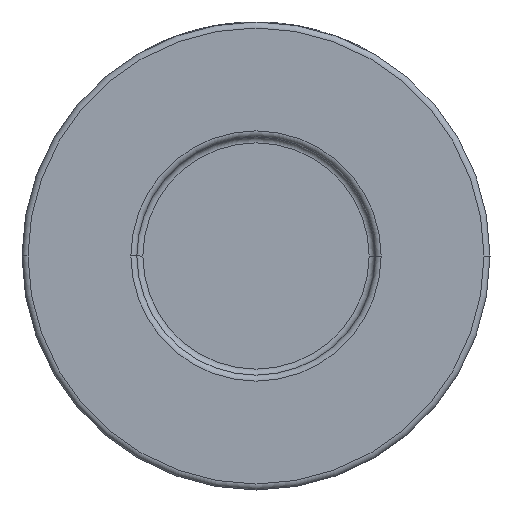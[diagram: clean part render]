
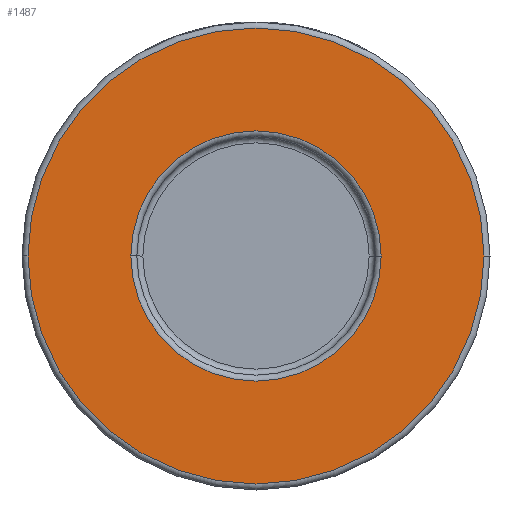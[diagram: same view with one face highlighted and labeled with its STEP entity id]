
A CAD part, front view. The second image highlights one B-rep face of the part: STEP entity #1487.
In plain terms, the highlighted planar face has unit normal (0, -1, 0).
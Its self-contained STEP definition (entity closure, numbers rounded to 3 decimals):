
#207 = EDGE_LOOP ( 'NONE', ( #2265, #4281 ) ) ;
#281 = AXIS2_PLACEMENT_3D ( 'NONE', #1944, #3376, #3027 ) ;
#420 = VERTEX_POINT ( 'NONE', #1808 ) ;
#477 = DIRECTION ( 'NONE',  ( 0., -1., 0. ) ) ;
#769 = CARTESIAN_POINT ( 'NONE',  ( 0., -29., 0. ) ) ;
#892 = AXIS2_PLACEMENT_3D ( 'NONE', #769, #3653, #995 ) ;
#995 = DIRECTION ( 'NONE',  ( 1., 0., 0. ) ) ;
#1167 = DIRECTION ( 'NONE',  ( 1., 0., 0. ) ) ;
#1296 = ORIENTED_EDGE ( 'NONE', *, *, #3234, .T. ) ;
#1436 = CIRCLE ( 'NONE', #1818, 38. ) ;
#1487 = ADVANCED_FACE ( 'NONE', ( #2011, #1689 ), #2071, .T. ) ;
#1689 = FACE_OUTER_BOUND ( 'NONE', #207, .T. ) ;
#1808 = CARTESIAN_POINT ( 'NONE',  ( -20.85, -29., 0. ) ) ;
#1818 = AXIS2_PLACEMENT_3D ( 'NONE', #3687, #477, #2276 ) ;
#1881 = CARTESIAN_POINT ( 'NONE',  ( 0., -29., 0. ) ) ;
#1944 = CARTESIAN_POINT ( 'NONE',  ( 0., -29., 0. ) ) ;
#2011 = FACE_BOUND ( 'NONE', #3607, .T. ) ;
#2071 = PLANE ( 'NONE',  #2328 ) ;
#2215 = CARTESIAN_POINT ( 'NONE',  ( -38., -29., 0. ) ) ;
#2265 = ORIENTED_EDGE ( 'NONE', *, *, #3646, .T. ) ;
#2276 = DIRECTION ( 'NONE',  ( 1., 0., 0. ) ) ;
#2328 = AXIS2_PLACEMENT_3D ( 'NONE', #3520, #3144, #2815 ) ;
#2541 = VERTEX_POINT ( 'NONE', #4291 ) ;
#2815 = DIRECTION ( 'NONE',  ( 1., 0., 0. ) ) ;
#2830 = VERTEX_POINT ( 'NONE', #3328 ) ;
#2835 = CIRCLE ( 'NONE', #4566, 38. ) ;
#3027 = DIRECTION ( 'NONE',  ( 1., 0., 0. ) ) ;
#3144 = DIRECTION ( 'NONE',  ( 0., -1., 0. ) ) ;
#3234 = EDGE_CURVE ( 'NONE', #2830, #420, #3357, .T. ) ;
#3281 = EDGE_CURVE ( 'NONE', #4539, #2541, #2835, .T. ) ;
#3328 = CARTESIAN_POINT ( 'NONE',  ( 20.85, -29., 0. ) ) ;
#3357 = CIRCLE ( 'NONE', #281, 20.85 ) ;
#3376 = DIRECTION ( 'NONE',  ( 0., 1., 0. ) ) ;
#3520 = CARTESIAN_POINT ( 'NONE',  ( 39., -29., 0. ) ) ;
#3607 = EDGE_LOOP ( 'NONE', ( #1296, #3992 ) ) ;
#3612 = CIRCLE ( 'NONE', #892, 20.85 ) ;
#3646 = EDGE_CURVE ( 'NONE', #2541, #4539, #1436, .T. ) ;
#3653 = DIRECTION ( 'NONE',  ( 0., 1., 0. ) ) ;
#3687 = CARTESIAN_POINT ( 'NONE',  ( 0., -29., 0. ) ) ;
#3992 = ORIENTED_EDGE ( 'NONE', *, *, #4177, .T. ) ;
#4177 = EDGE_CURVE ( 'NONE', #420, #2830, #3612, .T. ) ;
#4281 = ORIENTED_EDGE ( 'NONE', *, *, #3281, .T. ) ;
#4291 = CARTESIAN_POINT ( 'NONE',  ( 38., -29., 0. ) ) ;
#4394 = DIRECTION ( 'NONE',  ( 0., -1., 0. ) ) ;
#4539 = VERTEX_POINT ( 'NONE', #2215 ) ;
#4566 = AXIS2_PLACEMENT_3D ( 'NONE', #1881, #4394, #1167 ) ;
